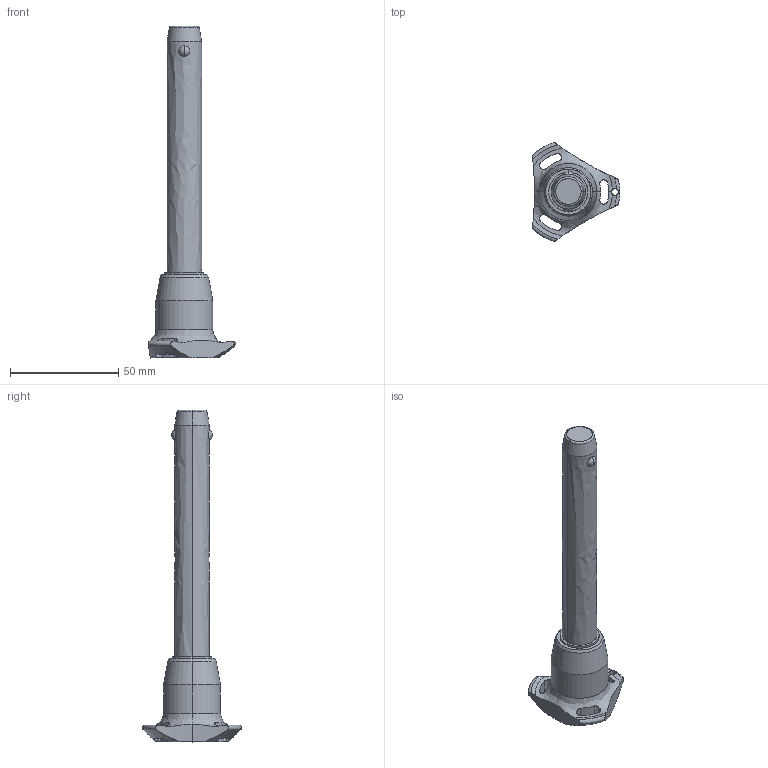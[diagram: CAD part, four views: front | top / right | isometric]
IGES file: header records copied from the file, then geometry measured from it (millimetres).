
Start section: SolidWorks IGES file using analytic representation for surfaces
Global section: file name: C:\Users\ianosborn\Desktop\QR1714_v2\QR1714_v2_20251112_IGES\QR1714.M16-100-S.igs; native system: SolidWorks 2019; preprocessor: SolidWorks 2019; author: IanOsborn; date: 251112.102336; units: millimetre
Bounding box: 40.5 x 45.88 x 153.7 mm (x, y, z)
Surface area: 11685.1 mm2 (no closed solid volume)
Topology: 0 solids, 0 shells, 65 faces, 1379 edges, 1375 vertices
Faces by surface type: revolution 50, bspline 15
